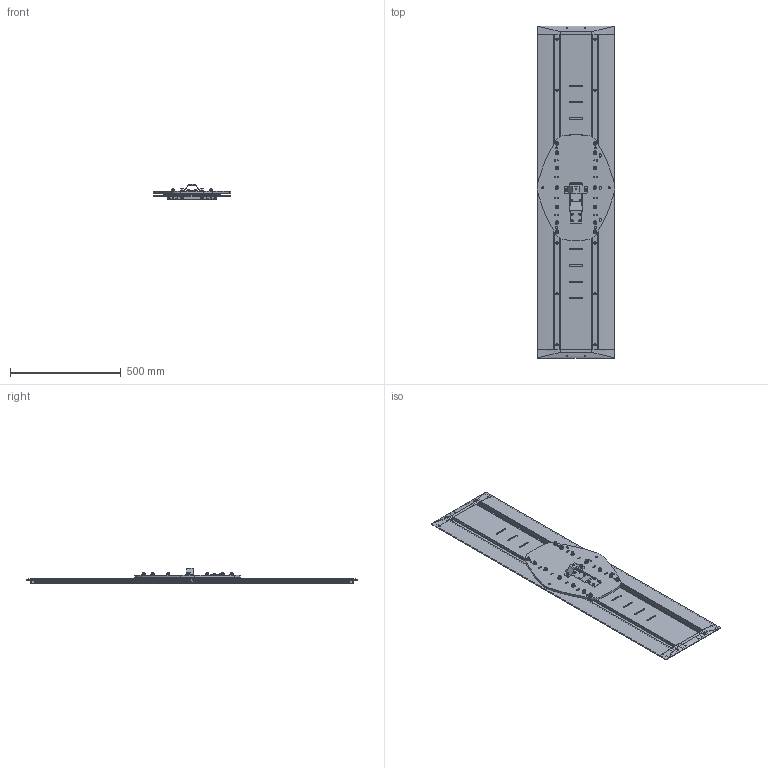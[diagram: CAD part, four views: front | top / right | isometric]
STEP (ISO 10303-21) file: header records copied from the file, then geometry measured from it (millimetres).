
FILE_DESCRIPTION (( 'STEP AP214' ), '1' );
FILE_NAME ('Alutech 4105_02.0_simple.STEP', '2015-08-28T11:59:38', ( '' ), ( '' ), 'SwSTEP 2.0', 'SolidWorks 2015', '' );
FILE_SCHEMA (( 'AUTOMOTIVE_DESIGN' ));
Length unit declared in the file: millimetre
Products named in the file (1): Alutech 4105_02.0_simple
Bounding box: 350 x 1500 x 68.8 mm (x, y, z)
Surface area: 1719746.7 mm2 (no closed solid volume)
Topology: 0 solids, 164 shells, 961 faces, 3499 edges, 2646 vertices
Faces by surface type: plane 461, cylinder 400, cone 44, bspline 40, torus 16
Entity records: 50716 total; most frequent: CARTESIAN_POINT 10610, DIRECTION 6324, ORIENTED_EDGE 5085, EDGE_CURVE 3499, VERTEX_POINT 2646, AXIS2_PLACEMENT_3D 2308, LINE 1708, VECTOR 1708
